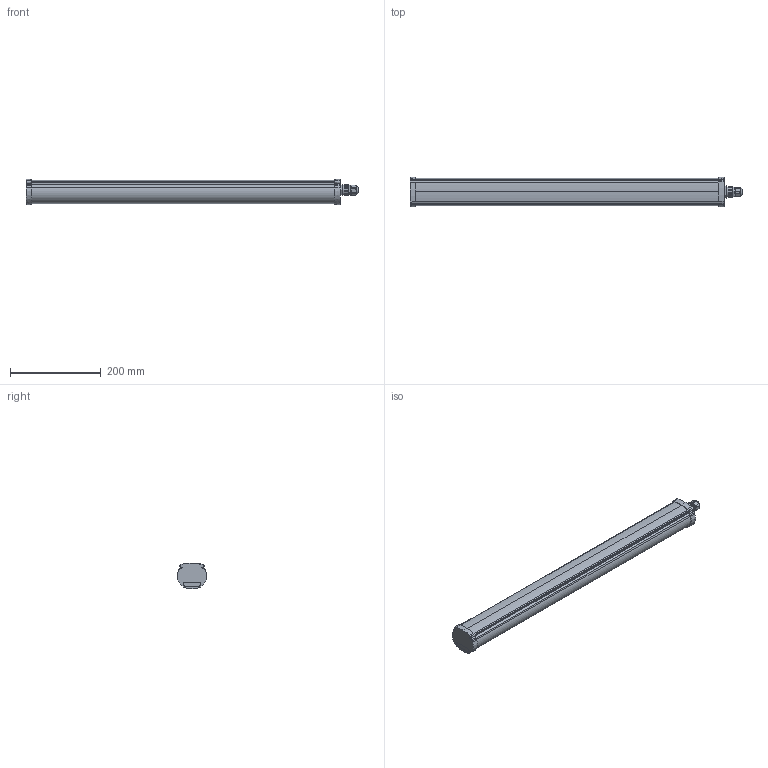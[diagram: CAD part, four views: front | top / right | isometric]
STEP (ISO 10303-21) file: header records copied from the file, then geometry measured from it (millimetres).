
FILE_DESCRIPTION(/* description */ (''),/* implementation_level */ '2;1');
FILE_NAME(/* name */ 'ZITA_SENSOR_CORRIDOR_IZTSI4.stp',/* time_stamp */ '2025-09-18T09:33:36+02:00',/* author */ ('gian.noche'),/* organization */ (''),/* preprocessor_version */ 'ST-DEVELOPER v19.2',/* originating_system */ 'Autodesk Inventor 2023',/* authorisation */ '');
FILE_SCHEMA (('AUTOMOTIVE_DESIGN { 1 0 10303 214 3 1 1 }'));
Length unit declared in the file: millimetre
Products named in the file (1): IDP_108_ZITA_SENSOR_725_Semplifica_1
Bounding box: 729.79 x 65.19 x 55.46 mm (x, y, z)
Volume: 1784351.6 mm3; surface area: 158249.7 mm2
Topology: 1 solids, 1 shells, 219 faces, 678 edges, 472 vertices
Faces by surface type: cylinder 98, plane 81, cone 31, torus 6, bspline 3
Full cylindrical faces by diameter (mm): 18.815 x1, 23 x1, 23.45 x1
Entity records: 8282 total; most frequent: CARTESIAN_POINT 2261, ORIENTED_EDGE 1356, DIRECTION 1231, EDGE_CURVE 678, AXIS2_PLACEMENT_3D 475, VERTEX_POINT 472, LINE 281, VECTOR 281
